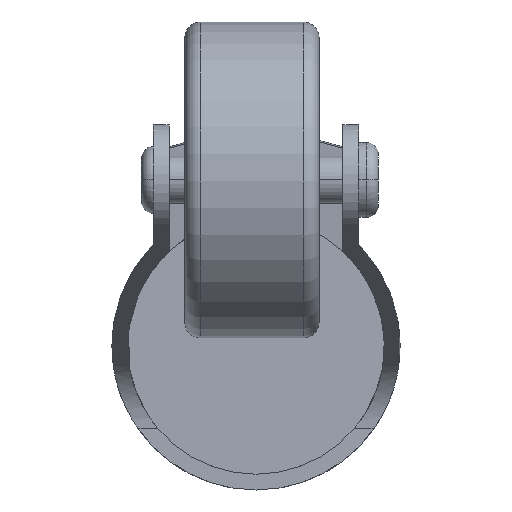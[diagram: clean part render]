
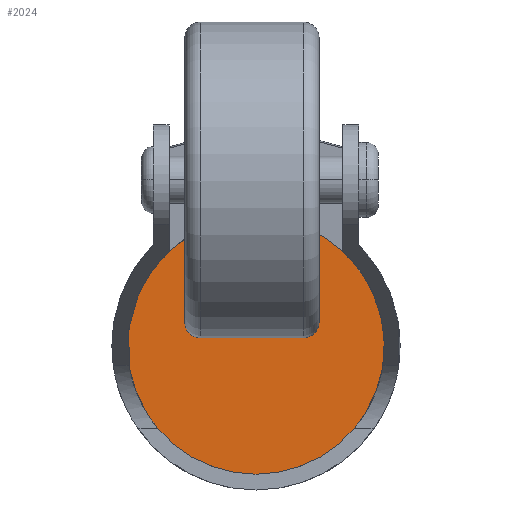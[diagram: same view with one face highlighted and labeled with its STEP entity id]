
A CAD part, front view. The second image highlights one B-rep face of the part: STEP entity #2024.
In plain terms, the highlighted planar face has unit normal (0, -1, 0).
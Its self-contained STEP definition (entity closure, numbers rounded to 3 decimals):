
#243 = VERTEX_POINT ( 'NONE', #2147 ) ;
#299 = EDGE_CURVE ( 'NONE', #243, #993, #1645, .T. ) ;
#497 = EDGE_LOOP ( 'NONE', ( #1873, #1349 ) ) ;
#682 = DIRECTION ( 'NONE',  ( 0., 0., 1. ) ) ;
#708 = EDGE_CURVE ( 'NONE', #993, #243, #1921, .T. ) ;
#880 = CARTESIAN_POINT ( 'NONE',  ( 0., 27.5, 0. ) ) ;
#933 = AXIS2_PLACEMENT_3D ( 'NONE', #2548, #2095, #1022 ) ;
#993 = VERTEX_POINT ( 'NONE', #2648 ) ;
#1022 = DIRECTION ( 'NONE',  ( 0., 0., 1. ) ) ;
#1290 = DIRECTION ( 'NONE',  ( 0., 1., 0. ) ) ;
#1349 = ORIENTED_EDGE ( 'NONE', *, *, #299, .F. ) ;
#1381 = AXIS2_PLACEMENT_3D ( 'NONE', #880, #1766, #682 ) ;
#1645 = CIRCLE ( 'NONE', #1831, 16.25 ) ;
#1766 = DIRECTION ( 'NONE',  ( 0., 1., 0. ) ) ;
#1831 = AXIS2_PLACEMENT_3D ( 'NONE', #2774, #1290, #1947 ) ;
#1868 = FACE_OUTER_BOUND ( 'NONE', #497, .T. ) ;
#1873 = ORIENTED_EDGE ( 'NONE', *, *, #708, .F. ) ;
#1921 = CIRCLE ( 'NONE', #1381, 16.25 ) ;
#1947 = DIRECTION ( 'NONE',  ( 0., 0., 1. ) ) ;
#2024 = ADVANCED_FACE ( 'NONE', ( #1868 ), #2754, .F. ) ;
#2095 = DIRECTION ( 'NONE',  ( 0., 1., 0. ) ) ;
#2147 = CARTESIAN_POINT ( 'NONE',  ( 0., 27.5, -16.25 ) ) ;
#2548 = CARTESIAN_POINT ( 'NONE',  ( 0., 27.5, 0. ) ) ;
#2648 = CARTESIAN_POINT ( 'NONE',  ( 0., 27.5, 16.25 ) ) ;
#2754 = PLANE ( 'NONE',  #933 ) ;
#2774 = CARTESIAN_POINT ( 'NONE',  ( 0., 27.5, 0. ) ) ;
